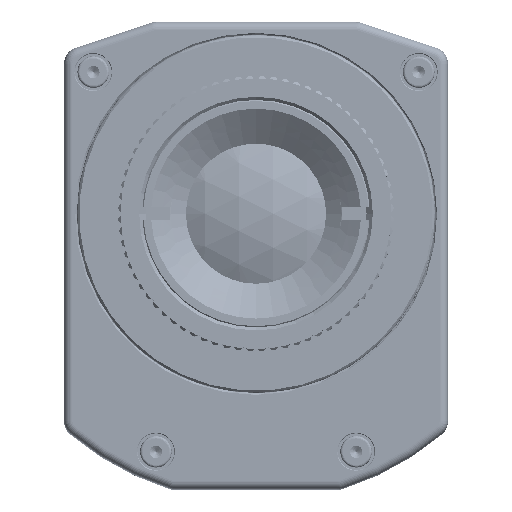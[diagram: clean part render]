
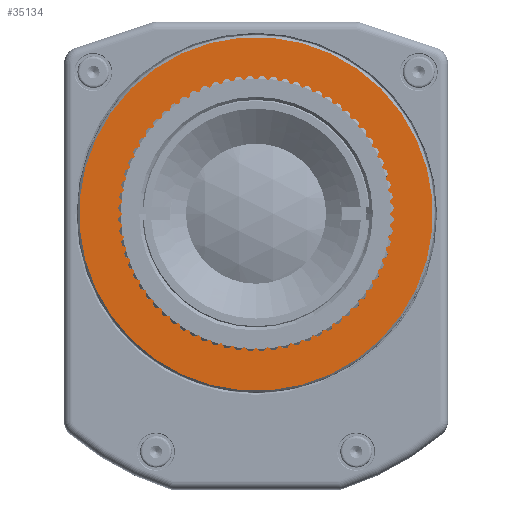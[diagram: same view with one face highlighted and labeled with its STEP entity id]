
A CAD part, top view. The second image highlights one B-rep face of the part: STEP entity #35134.
In plain terms, the highlighted planar face has unit normal (0, 0, 1).
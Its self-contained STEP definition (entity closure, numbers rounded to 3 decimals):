
#4041 = DIRECTION ( 'NONE',  ( 0., 0., 1. ) ) ;
#7237 = EDGE_LOOP ( 'NONE', ( #75865 ) ) ;
#11120 = EDGE_CURVE ( 'NONE', #38034, #38034, #18024, .T. ) ;
#15487 = AXIS2_PLACEMENT_3D ( 'NONE', #57760, #4041, #28031 ) ;
#18024 = CIRCLE ( 'NONE', #61754, 21.2 ) ;
#21937 = CARTESIAN_POINT ( 'NONE',  ( 15., 0., 11.5 ) ) ;
#28031 = DIRECTION ( 'NONE',  ( 1., 0., 0. ) ) ;
#30897 = DIRECTION ( 'NONE',  ( -1., 0., 0. ) ) ;
#30900 = AXIS2_PLACEMENT_3D ( 'NONE', #30972, #30961, #30897 ) ;
#30961 = DIRECTION ( 'NONE',  ( 0., 0., -1. ) ) ;
#30972 = CARTESIAN_POINT ( 'NONE',  ( 0., 21.4, 11.5 ) ) ;
#31058 = PLANE ( 'NONE',  #30900 ) ;
#31079 = FACE_BOUND ( 'NONE', #7237, .T. ) ;
#31164 = FACE_OUTER_BOUND ( 'NONE', #45323, .T. ) ;
#35134 = ADVANCED_FACE ( 'NONE', ( #31164, #31079 ), #31058, .F. ) ;
#38034 = VERTEX_POINT ( 'NONE', #61704 ) ;
#43690 = EDGE_CURVE ( 'NONE', #75218, #75218, #49489, .T. ) ;
#45186 = DIRECTION ( 'NONE',  ( -1., 0., 0. ) ) ;
#45277 = DIRECTION ( 'NONE',  ( 0., 0., 1. ) ) ;
#45323 = EDGE_LOOP ( 'NONE', ( #75490 ) ) ;
#45454 = CARTESIAN_POINT ( 'NONE',  ( 0., 0., 11.5 ) ) ;
#49489 = CIRCLE ( 'NONE', #15487, 15. ) ;
#57760 = CARTESIAN_POINT ( 'NONE',  ( 0., 0., 11.5 ) ) ;
#61704 = CARTESIAN_POINT ( 'NONE',  ( -21.2, 0., 11.5 ) ) ;
#61754 = AXIS2_PLACEMENT_3D ( 'NONE', #45454, #45277, #45186 ) ;
#75218 = VERTEX_POINT ( 'NONE', #21937 ) ;
#75490 = ORIENTED_EDGE ( 'NONE', *, *, #11120, .T. ) ;
#75865 = ORIENTED_EDGE ( 'NONE', *, *, #43690, .F. ) ;
